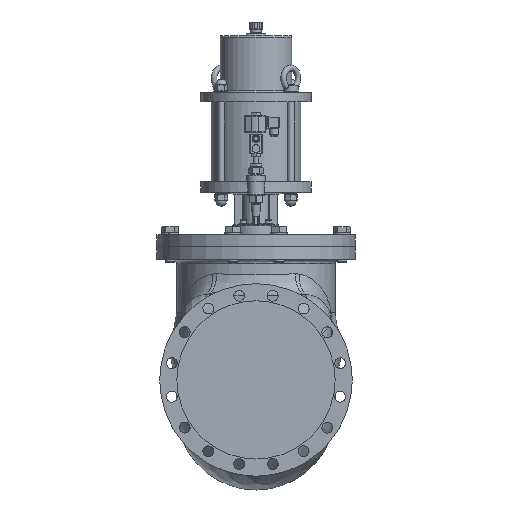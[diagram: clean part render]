
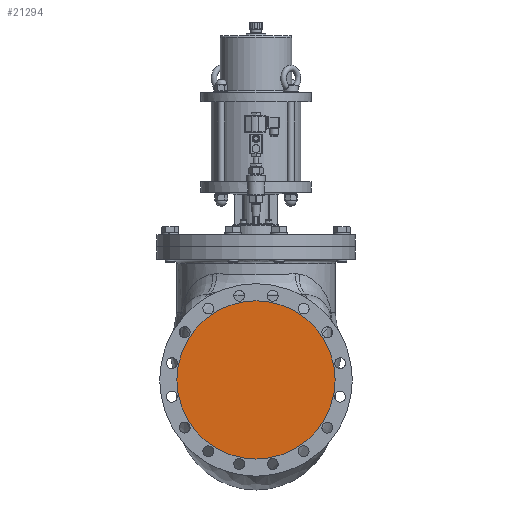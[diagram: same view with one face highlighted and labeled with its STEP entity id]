
A CAD part, left-side view. The second image highlights one B-rep face of the part: STEP entity #21294.
In plain terms, the highlighted planar face has unit normal (-1, 0, 0).
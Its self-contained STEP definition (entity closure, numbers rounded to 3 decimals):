
#20339=CARTESIAN_POINT('',(-425.0,0.,189.));
#20340=VERTEX_POINT('',#20339);
#20341=CARTESIAN_POINT('',(-425.0,0.0,0.0));
#20342=DIRECTION('',(-1.0,0.0,0.0));
#20343=DIRECTION('',(0.0,0.0,-1.0));
#20344=AXIS2_PLACEMENT_3D('',#20341,#20342,#20343);
#20345=CIRCLE('',#20344,189.);
#20346=EDGE_CURVE('',#20340,#20340,#20345,.T.);
#21286=CARTESIAN_POINT('',(-425.0,0.,-0.397));
#21287=DIRECTION('',(1.0,0.0,0.0));
#21288=DIRECTION('',(0.0,0.0,-1.0));
#21289=AXIS2_PLACEMENT_3D('',#21286,#21287,#21288);
#21290=PLANE('',#21289);
#21291=ORIENTED_EDGE('',*,*,#20346,.T.);
#21292=EDGE_LOOP('',(#21291));
#21293=FACE_OUTER_BOUND('',#21292,.T.);
#21294=ADVANCED_FACE('',(#21293),#21290,.F.);
